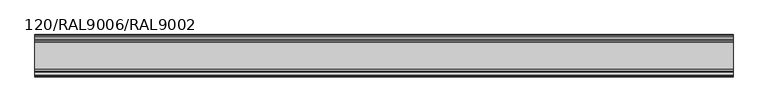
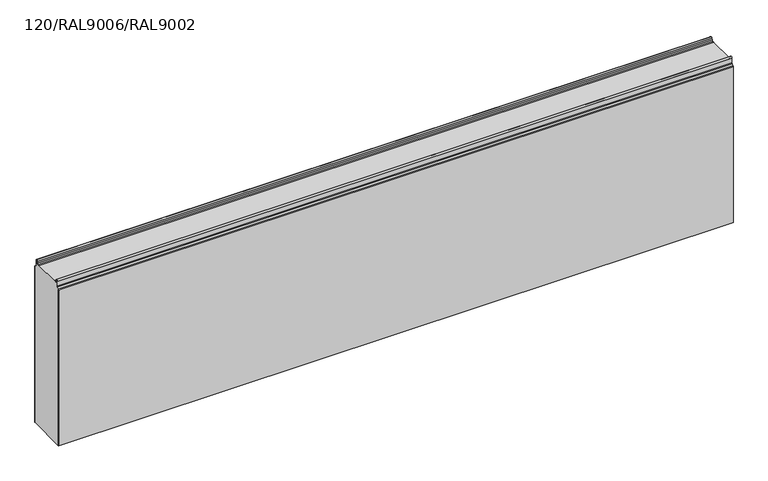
"""IFC4 building model written with IfcOpenShell, lengths in millimetres: plate geometry, TR_C_H_FTV_Panel_cut_TONGUE : 120/RAL9006/RAL9002."""

from ifc_helpers import new_model, si_unit, point, frame, frame_2d, origin, place, context, project, spatial, polyline, circle_curve, trimmed, segment, composite_curve, outline, extrude, source, transform, mapped, element, save


def plate_120_ral9006_ral9002_4177b999(model_context):
    return source(origin(), model_context, "Body", "SweptSolid", [
        extrude(outline(composite_curve([segment(trimmed(circle_curve(frame_2d((-117.0, 484.3218266)), 2.2), [point((-119.2, 484.3218266))], [point((-118.5556349, 485.8774615))], False, "CARTESIAN"), True, "CONTINUOUS"), segment(polyline([(-118.5556349, 485.8774615), (-114.1665476, 490.2665488)]), True, "CONTINUOUS"), segment(trimmed(circle_curve(frame_2d((-116.5, 492.6000012)), 3.3), [point((-114.1665476, 490.2665488))], [point((-113.2, 492.6000012))], True, "CARTESIAN"), True, "CONTINUOUS"), segment(polyline([(-113.2, 492.6000012), (-113.2, 500.0), (-6.8, 500.0), (-6.8, 492.6000012)]), True, "CONTINUOUS"), segment(trimmed(circle_curve(frame_2d((-3.5, 492.6000012)), 3.3), [point((-6.8, 492.6000012))], [point((-5.8334524, 490.2665488))], True, "CARTESIAN"), True, "CONTINUOUS"), segment(polyline([(-5.8334524, 490.2665488), (-1.4443651, 485.8774615)]), True, "CONTINUOUS"), segment(trimmed(circle_curve(frame_2d((-3.0, 484.3218266)), 2.2), [point((-1.4443651, 485.8774615))], [point((-0.8, 484.3218266))], False, "CARTESIAN"), True, "CONTINUOUS"), segment(polyline([(-0.8, 484.3218266), (-0.8, 0.0), (-119.2, 0.0), (-119.2, 484.3218266)]), True, "CONTINUOUS")], self_intersect=False)), frame((-990.0, 0.0, 0.0), z_axis=(1.0, 0.0, 0.0), x_axis=(0.0, 1.0, 0.0)), (0.0, 0.0, 1.0), 1980.0),
        extrude(outline(composite_curve([segment(trimmed(circle_curve(frame_2d((-3.0, 484.3218266)), 3.0), [point((-0.8786797, 486.4431469))], [point((0.0, 484.3218266))], False, "CARTESIAN"), True, "CONTINUOUS"), segment(polyline([(0.0, 484.3218266), (0.0, 0.0), (-0.8, 0.0), (-0.8, 484.3218266)]), True, "CONTINUOUS"), segment(trimmed(circle_curve(frame_2d((-3.0, 484.3218266)), 2.2), [point((-0.8, 484.3218266))], [point((-1.4443651, 485.8774615))], True, "CARTESIAN"), True, "CONTINUOUS"), segment(polyline([(-1.4443651, 485.8774615), (-5.8334524, 490.2665488)]), True, "CONTINUOUS"), segment(trimmed(circle_curve(frame_2d((-3.5, 492.6000012)), 3.3), [point((-5.8334524, 490.2665488))], [point((-6.8, 492.6000012))], False, "CARTESIAN"), True, "CONTINUOUS"), segment(polyline([(-6.8, 492.6000012), (-6.8, 507.3500012)]), True, "CONTINUOUS"), segment(trimmed(circle_curve(frame_2d((-9.25, 507.3500012)), 2.45), [point((-6.8, 507.3500012))], [point((-11.662779, 507.7754392))], True, "CARTESIAN"), True, "CONTINUOUS"), segment(polyline([(-11.662779, 507.7754392), (-12.4060919, 503.559902)]), True, "CONTINUOUS"), segment(trimmed(circle_curve(frame_2d((-16.8869672, 504.3500012)), 4.55), [point((-12.4060919, 503.559902))], [point((-16.8869672, 499.8000012))], False, "CARTESIAN"), True, "CONTINUOUS"), segment(polyline([(-16.8869672, 499.8000012), (-21.0, 499.8000012), (-21.0, 500.6000012), (-16.8869672, 500.6000012)]), True, "CONTINUOUS"), segment(trimmed(circle_curve(frame_2d((-16.8869672, 504.3500012)), 3.75), [point((-16.8869672, 500.6000012))], [point((-13.1939382, 503.6988205))], True, "CARTESIAN"), True, "CONTINUOUS"), segment(polyline([(-13.1939382, 503.6988205), (-12.4506252, 507.9143577)]), True, "CONTINUOUS"), segment(trimmed(circle_curve(frame_2d((-9.25, 507.3500012)), 3.25), [point((-12.4506252, 507.9143577))], [point((-6.0, 507.3500012))], False, "CARTESIAN"), True, "CONTINUOUS"), segment(polyline([(-6.0, 507.3500012), (-6.0, 492.6000012)]), True, "CONTINUOUS"), segment(trimmed(circle_curve(frame_2d((-3.5, 492.6000012)), 2.5), [point((-6.0, 492.6000012))], [point((-5.267767, 490.8322342))], True, "CARTESIAN"), True, "CONTINUOUS"), segment(polyline([(-5.267767, 490.8322342), (-0.8786797, 486.4431469)]), True, "CONTINUOUS")], self_intersect=False)), frame((-990.0, 0.0, 0.0), z_axis=(1.0, 0.0, 0.0), x_axis=(0.0, 1.0, 0.0)), (0.0, 0.0, 1.0), 1980.0),
        extrude(outline(composite_curve([segment(trimmed(circle_curve(frame_2d((-103.1130328, 504.3500012)), 4.55), [point((-103.1130328, 499.8000012))], [point((-107.5939081, 503.559902))], False, "CARTESIAN"), True, "CONTINUOUS"), segment(polyline([(-107.5939081, 503.559902), (-108.337221, 507.7754392)]), True, "CONTINUOUS"), segment(trimmed(circle_curve(frame_2d((-110.75, 507.3500012)), 2.45), [point((-108.337221, 507.7754392))], [point((-113.2, 507.3500012))], True, "CARTESIAN"), True, "CONTINUOUS"), segment(polyline([(-113.2, 507.3500012), (-113.2, 492.6000012)]), True, "CONTINUOUS"), segment(trimmed(circle_curve(frame_2d((-116.5, 492.6000012)), 3.3), [point((-113.2, 492.6000012))], [point((-114.1665476, 490.2665488))], False, "CARTESIAN"), True, "CONTINUOUS"), segment(polyline([(-114.1665476, 490.2665488), (-118.5556349, 485.8774615)]), True, "CONTINUOUS"), segment(trimmed(circle_curve(frame_2d((-117.0, 484.3218266)), 2.2), [point((-118.5556349, 485.8774615))], [point((-119.2, 484.3218266))], True, "CARTESIAN"), True, "CONTINUOUS"), segment(polyline([(-119.2, 484.3218266), (-119.2, 0.0), (-120.0, 0.0), (-120.0, 484.3218266)]), True, "CONTINUOUS"), segment(trimmed(circle_curve(frame_2d((-117.0, 484.3218266)), 3.0), [point((-120.0, 484.3218266))], [point((-119.1213203, 486.4431469))], False, "CARTESIAN"), True, "CONTINUOUS"), segment(polyline([(-119.1213203, 486.4431469), (-114.732233, 490.8322342)]), True, "CONTINUOUS"), segment(trimmed(circle_curve(frame_2d((-116.5, 492.6000012)), 2.5), [point((-114.732233, 490.8322342))], [point((-114.0, 492.6000012))], True, "CARTESIAN"), True, "CONTINUOUS"), segment(polyline([(-114.0, 492.6000012), (-114.0, 507.3500012)]), True, "CONTINUOUS"), segment(trimmed(circle_curve(frame_2d((-110.75, 507.3500012)), 3.25), [point((-114.0, 507.3500012))], [point((-107.5493748, 507.9143577))], False, "CARTESIAN"), True, "CONTINUOUS"), segment(polyline([(-107.5493748, 507.9143577), (-106.8060618, 503.6988205)]), True, "CONTINUOUS"), segment(trimmed(circle_curve(frame_2d((-103.1130328, 504.3500012)), 3.75), [point((-106.8060618, 503.6988205))], [point((-103.1130328, 500.6000012))], True, "CARTESIAN"), True, "CONTINUOUS"), segment(polyline([(-103.1130328, 500.6000012), (-99.0, 500.6000012), (-99.0, 499.8000012), (-103.1130328, 499.8000012)]), True, "CONTINUOUS")], self_intersect=False)), frame((-990.0, 0.0, 0.0), z_axis=(1.0, 0.0, 0.0), x_axis=(0.0, 1.0, 0.0)), (0.0, 0.0, 1.0), 1980.0),
    ])


if __name__ == "__main__":
    model = new_model("IFC4")
    model_context = context("Model", 3, world=origin())
    ifc_project = project(units=[si_unit("LENGTHUNIT", "METRE", prefix="MILLI")], contexts=[model_context])
    site = spatial("IfcSite", under=ifc_project)
    building = spatial("IfcBuilding", under=site)
    placement = place(None, origin())
    plate_120_ral9006_ral9002_shape = plate_120_ral9006_ral9002_4177b999(model_context)
    element("IfcPlate", 1, ObjectType="TR_C_H_FTV_Panel_cut_TONGUE : 120/RAL9006/RAL9002", at=placement, inside=building, context=model_context, shape_type="MappedRepresentation", body=[
        mapped(plate_120_ral9006_ral9002_shape, transform((0.0, 0.0, 0.0), x_axis=(1.0, 0.0, 0.0), y_axis=(0.0, 1.0, 0.0), z_axis=(0.0, 0.0, 1.0))),
    ])
    save(model, "model.ifc")
